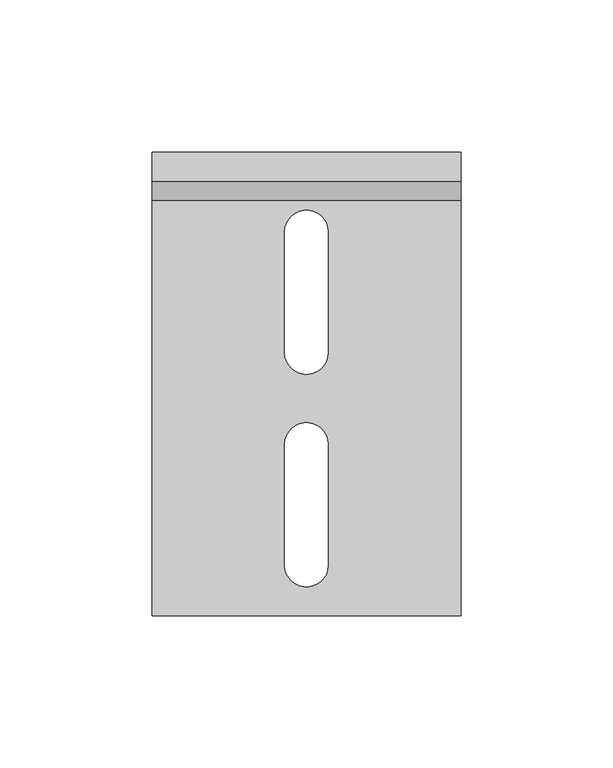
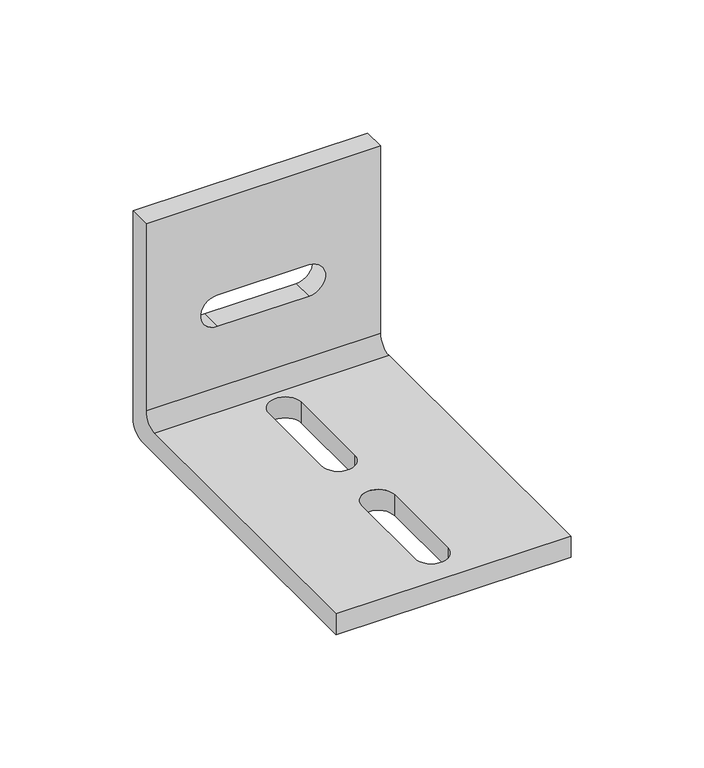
"""IFC4 building model written with IfcOpenShell, lengths in millimetres: proxy geometry, 14NSF-A24 : 14NSF-A24."""

from ifc_helpers import new_model, si_unit, frame, origin, place, context, project, spatial, polyline, circle_curve, source, transform, mapped, element, save
from ifc_brep_helpers import plane_surface, cylinder_surface, revolved_surface, advanced_brep


def generic_models_1f3758d4(model_context):
    return source(origin(), model_context, "Body", "AdvancedBrep", [
        advanced_brep(
        [(50.8, -152.4, 9.525), (50.8, -152.4, 0.0), (50.8, -6.35, 0.0), (50.8, 0.0, 6.35), (50.8, 0.0, 101.6), (50.8, -9.525, 101.6), (50.8, -9.525, 15.875), (50.8, -15.875, 9.525), (-50.8, -152.4, 0.0), (-50.8, -152.4, 9.525), (-50.8, -15.875, 9.525), (-50.8, -9.525, 15.875), (-50.8, -9.525, 101.6), (-50.8, 0.0, 101.6), (-50.8, 0.0, 6.35), (-50.8, -6.35, 0.0), (7.14375, -65.8874249, 0.0), (7.14375, -26.1875751, 0.0), (-7.14375, -26.1875751, 0.0), (-7.14375, -65.8874249, 0.0), (7.14375, -135.7374249, 0.0), (7.14375, -96.0375751, 0.0), (-7.14375, -96.0375751, 0.0), (-7.14375, -135.7374249, 0.0), (19.8499249, 0.0, 57.94375), (-19.8499249, 0.0, 57.94375), (-19.8499249, 0.0, 43.65625), (19.8499249, 0.0, 43.65625), (-19.8499249, -9.525, 57.94375), (19.8499249, -9.525, 57.94375), (19.8499249, -9.525, 43.65625), (-19.8499249, -9.525, 43.65625), (7.14375, -26.1875751, 9.525), (7.14375, -65.8874249, 9.525), (-7.14375, -65.8874249, 9.525), (-7.14375, -26.1875751, 9.525), (7.14375, -96.0375751, 9.525), (7.14375, -135.7374249, 9.525), (-7.14375, -135.7374249, 9.525), (-7.14375, -96.0375751, 9.525)],
        [
            (0, 1),
            (1, 2),
            (2, 3, circle_curve(frame((50.8, -6.35, 6.35), z_axis=(1.0, 0.0, 0.0), x_axis=(0.0, 1.0, 0.0)), 6.35)),
            (3, 4),
            (4, 5),
            (5, 6),
            (6, 7, circle_curve(frame((50.8, -15.875, 15.875), z_axis=(-1.0, 0.0, 0.0), x_axis=(0.0, 1.0, 0.0)), 6.35)),
            (7, 0),
            (8, 9),
            (9, 10),
            (10, 11, circle_curve(frame((-50.8, -15.875, 15.875), z_axis=(1.0, 0.0, 0.0), x_axis=(0.0, 1.0, 0.0)), 6.35)),
            (11, 12),
            (12, 13),
            (13, 14),
            (14, 15, circle_curve(frame((-50.8, -6.35, 6.35), z_axis=(-1.0, 0.0, 0.0), x_axis=(0.0, 1.0, 0.0)), 6.35)),
            (15, 8),
            (0, 9),
            (8, 1),
            (15, 2),
            (16, 17),
            (17, 18, circle_curve(frame((0.0, -26.1875751, 0.0), z_axis=(0.0, 0.0, 1.0), x_axis=(1.0, 0.0, 0.0)), 7.14375)),
            (18, 19),
            (19, 16, circle_curve(frame((0.0, -65.8874249, 0.0), z_axis=(0.0, 0.0, 1.0), x_axis=(1.0, 0.0, 0.0)), 7.14375)),
            (20, 21),
            (21, 22, circle_curve(frame((0.0, -96.0375751, 0.0), z_axis=(0.0, 0.0, 1.0), x_axis=(1.0, 0.0, 0.0)), 7.14375)),
            (22, 23),
            (23, 20, circle_curve(frame((0.0, -135.7374249, 0.0), z_axis=(0.0, 0.0, 1.0), x_axis=(1.0, 0.0, 0.0)), 7.14375)),
            (14, 3),
            (13, 4),
            (24, 25),
            (25, 26, circle_curve(frame((-19.8499249, 0.0, 50.8), z_axis=(0.0, -1.0, 0.0), x_axis=(0.0, 0.0, 1.0)), 7.14375)),
            (26, 27),
            (27, 24, circle_curve(frame((19.8499249, 0.0, 50.8), z_axis=(0.0, -1.0, 0.0), x_axis=(0.0, 0.0, 1.0)), 7.14375)),
            (12, 5),
            (11, 6),
            (28, 29),
            (29, 30, circle_curve(frame((19.8499249, -9.525, 50.8), z_axis=(0.0, 1.0, 0.0), x_axis=(0.0, 0.0, 1.0)), 7.14375)),
            (30, 31),
            (31, 28, circle_curve(frame((-19.8499249, -9.525, 50.8), z_axis=(0.0, 1.0, 0.0), x_axis=(0.0, 0.0, 1.0)), 7.14375)),
            (10, 7),
            (32, 33),
            (33, 34, circle_curve(frame((0.0, -65.8874249, 9.525), z_axis=(0.0, 0.0, -1.0), x_axis=(1.0, 0.0, 0.0)), 7.14375)),
            (34, 35),
            (35, 32, circle_curve(frame((0.0, -26.1875751, 9.525), z_axis=(0.0, 0.0, -1.0), x_axis=(1.0, 0.0, 0.0)), 7.14375)),
            (36, 37),
            (37, 38, circle_curve(frame((0.0, -135.7374249, 9.525), z_axis=(0.0, 0.0, -1.0), x_axis=(1.0, 0.0, 0.0)), 7.14375)),
            (38, 39),
            (39, 36, circle_curve(frame((0.0, -96.0375751, 9.525), z_axis=(0.0, 0.0, -1.0), x_axis=(1.0, 0.0, 0.0)), 7.14375)),
            (24, 29),
            (28, 25),
            (31, 26),
            (30, 27),
            (16, 33),
            (32, 17),
            (35, 18),
            (34, 19),
            (20, 37),
            (36, 21),
            (39, 22),
            (38, 23),
        ],
        [
            plane_surface(frame((50.8, -152.4, -304.8), z_axis=(1.0, 0.0, 0.0), x_axis=(0.0, 0.0, -1.0))),
            plane_surface(frame((-50.8, -152.4, -304.8), z_axis=(-1.0, 0.0, 0.0), x_axis=(0.0, 0.0, 1.0))),
            plane_surface(frame((50.8, -152.4, 9.525), z_axis=(0.0, -1.0, 0.0), x_axis=(-1.0, 0.0, 0.0))),
            plane_surface(frame((50.8, -152.4, 0.0), z_axis=(0.0, 0.0, -1.0), x_axis=(-1.0, 0.0, 0.0))),
            cylinder_surface(frame((-50.8, -6.35, 6.35), z_axis=(1.0, 0.0, 0.0), x_axis=(0.0, 1.0, 0.0)), 6.35),
            plane_surface(frame((50.8, 0.0, 6.35), z_axis=(0.0, 1.0, 0.0), x_axis=(-1.0, 0.0, 0.0))),
            plane_surface(frame((50.8, 0.0, 101.6), z_axis=(0.0, 0.0, 1.0), x_axis=(-1.0, 0.0, 0.0))),
            plane_surface(frame((50.8, -9.525, 101.6), z_axis=(0.0, -1.0, 0.0), x_axis=(-1.0, 0.0, 0.0))),
            revolved_surface(polyline([(-50.8, -9.525, 15.875), (50.8, -9.525, 15.875)]), (-50.8, -15.875, 15.875), (-1.0, 0.0, 0.0)),
            plane_surface(frame((50.8, -15.875, 9.525), z_axis=(0.0, 0.0, 1.0), x_axis=(-1.0, 0.0, 0.0))),
            plane_surface(frame((19.8499249, -12.7, 57.94375), z_axis=(0.0, 0.0, -1.0), x_axis=(0.0, 1.0, 0.0))),
            revolved_surface(polyline([(-19.8499249, -9.525, 57.943749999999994), (-19.8499249, 0.0, 57.943749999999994)]), (-19.8499249, 0.0, 50.8), (0.0, -1.0, 0.0)),
            plane_surface(frame((-19.8499249, -12.7, 43.65625), z_axis=(0.0, 0.0, 1.0), x_axis=(0.0, 1.0, 0.0))),
            revolved_surface(polyline([(19.8499249, -9.525, 57.943749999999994), (19.8499249, 0.0, 57.943749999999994)]), (19.8499249, 0.0, 50.8), (0.0, -1.0, 0.0)),
            plane_surface(frame((7.14375, -65.8874249, 12.7), z_axis=(-1.0, 0.0, 0.0), x_axis=(0.0, 0.0, -1.0))),
            revolved_surface(polyline([(7.14375, -26.1875751, 9.525), (7.14375, -26.1875751, 0.0)]), (0.0, -26.1875751, 0.0), (0.0, 0.0, 1.0)),
            plane_surface(frame((-7.14375, -26.1875751, 12.7), z_axis=(1.0, 0.0, 0.0), x_axis=(0.0, 0.0, -1.0))),
            revolved_surface(polyline([(7.14375, -65.8874249, 9.525), (7.14375, -65.8874249, 0.0)]), (0.0, -65.8874249, 0.0), (0.0, 0.0, 1.0)),
            plane_surface(frame((7.14375, -135.7374249, 12.7), z_axis=(-1.0, 0.0, 0.0), x_axis=(0.0, 0.0, -1.0))),
            revolved_surface(polyline([(7.14375, -96.0375751, 9.525), (7.14375, -96.0375751, 0.0)]), (0.0, -96.0375751, 0.0), (0.0, 0.0, 1.0)),
            plane_surface(frame((-7.14375, -96.0375751, 12.7), z_axis=(1.0, 0.0, 0.0), x_axis=(0.0, 0.0, -1.0))),
            revolved_surface(polyline([(7.14375, -135.7374249, 9.525), (7.14375, -135.7374249, 0.0)]), (0.0, -135.7374249, 0.0), (0.0, 0.0, 1.0)),
        ],
        [
            (0, [[1, 2, 3, 4, 5, 6, 7, 8]]),
            (1, [[9, 10, 11, 12, 13, 14, 15, 16]]),
            (2, [[-1, 17, -9, 18]]),
            (3, [[-2, -18, -16, 19], [20, 21, 22, 23], [24, 25, 26, 27]]),
            (4, [[-3, -19, -15, 28]]),
            (5, [[-4, -28, -14, 29], [30, 31, 32, 33]]),
            (6, [[-5, -29, -13, 34]]),
            (7, [[-6, -34, -12, 35], [36, 37, 38, 39]]),
            (8, [[-7, -35, -11, 40]]),
            (9, [[-8, -40, -10, -17], [41, 42, 43, 44], [45, 46, 47, 48]]),
            (10, [[49, -36, 50, -30]]),
            (11, [[-50, -39, 51, -31]]),
            (12, [[-51, -38, 52, -32]]),
            (13, [[-49, -33, -52, -37]]),
            (14, [[53, -41, 54, -20]]),
            (15, [[-54, -44, 55, -21]]),
            (16, [[-55, -43, 56, -22]]),
            (17, [[-53, -23, -56, -42]]),
            (18, [[57, -45, 58, -24]]),
            (19, [[-58, -48, 59, -25]]),
            (20, [[-59, -47, 60, -26]]),
            (21, [[-57, -27, -60, -46]]),
        ],
    ),
    ])


if __name__ == "__main__":
    model = new_model("IFC4")
    model_context = context("Model", 3, world=origin())
    ifc_project = project(units=[si_unit("LENGTHUNIT", "METRE", prefix="MILLI")], contexts=[model_context])
    site = spatial("IfcSite", under=ifc_project)
    building = spatial("IfcBuilding", under=site)
    placement = place(None, origin())
    generic_models_shape = generic_models_1f3758d4(model_context)
    element("IfcBuildingElementProxy", 1, Name="14NSF-A24 : 14NSF-A24", ObjectType="14NSF-A24 : 14NSF-A24", at=placement, inside=building, context=model_context, shape_type="MappedRepresentation", body=[
        mapped(generic_models_shape, transform((0.0, 0.0, 0.0), x_axis=(1.0, 0.0, 0.0), y_axis=(0.0, 1.0, 0.0), z_axis=(0.0, 0.0, 1.0))),
    ])
    save(model, "model.ifc")
